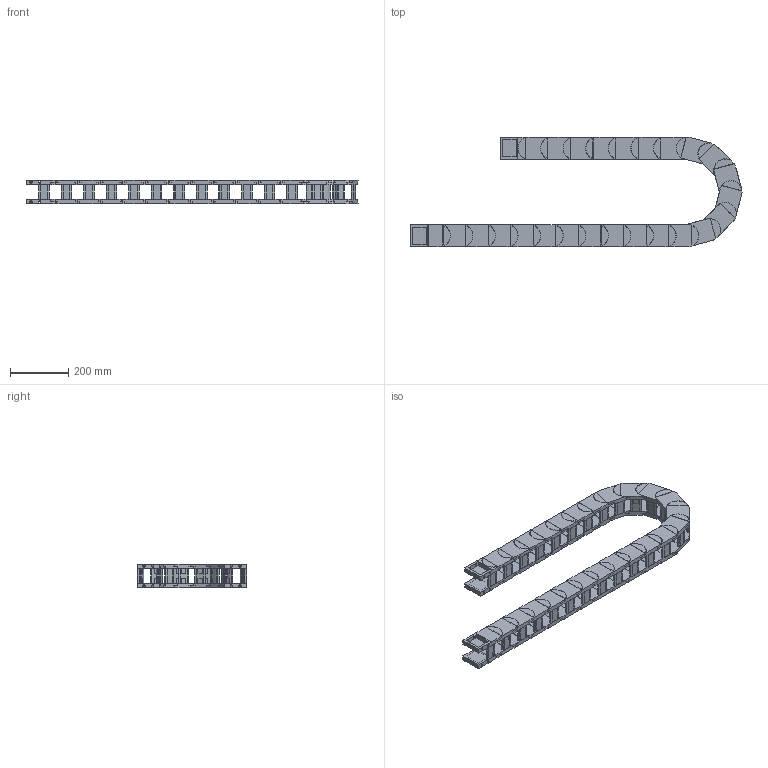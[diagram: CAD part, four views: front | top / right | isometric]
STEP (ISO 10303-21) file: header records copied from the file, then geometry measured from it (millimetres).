
FILE_DESCRIPTION((''),'2;1');
FILE_NAME('HD55-R150-ZPT_ASM','2022-06-17T17:18:53',('admin'),(''),'CREO PARAMETRIC BY PTC INC, 2021164','CREO PARAMETRIC BY PTC INC, 2021164','');
FILE_SCHEMA(('CONFIG_CONTROL_DESIGN','GEOMETRIC_VALIDATION_PROPERTIES_MIM'));
Length unit declared in the file: millimetre
Products named in the file (6): HD-55; 55-500001; HD55_ASM; H55-T1; H55-T2; HD55-R150-ZPT_ASM
Assembly tree (30 placements, depth 3):
  HD55-R150-ZPT_ASM
    HD55_ASM  x24
      HD-55
      55-500001
    H55-T1
    H55-T2
    55-500001  x2
Bounding box: 1139.56 x 376 x 82.2 mm (x, y, z)
Volume: 5353785.7 mm3; surface area: 1693608 mm2
Topology: 104 solids, 104 shells, 1726 faces, 4430 edges, 3020 vertices
Faces by surface type: plane 1424, cylinder 302
Entity records: 8788 total; most frequent: CARTESIAN_POINT 1296, DIRECTION 1258, ORIENTED_EDGE 1172, EDGE_CURVE 586, AXIS2_PLACEMENT_3D 420, VECTOR 418, LINE 418, VERTEX_POINT 396
